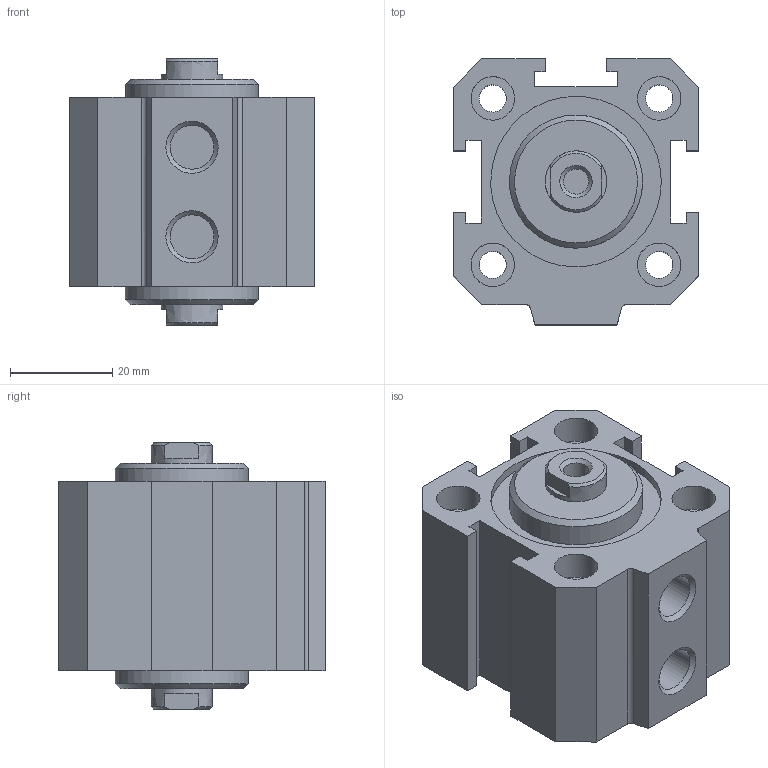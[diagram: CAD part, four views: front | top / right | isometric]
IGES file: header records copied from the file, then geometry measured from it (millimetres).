
Global section: file name: 1514_32_0000; native system: Autodesk Inventor 2014; preprocessor: unknown; author: A. Manieri; date: 20160824.113507; units: millimetre
Bounding box: 48 x 52 x 52 mm (x, y, z)
Volume: 73829.2 mm3; surface area: 25907.5 mm2
Topology: 2 solids, 2 shells, 106 faces, 276 edges, 194 vertices
Faces by surface type: bspline 106
